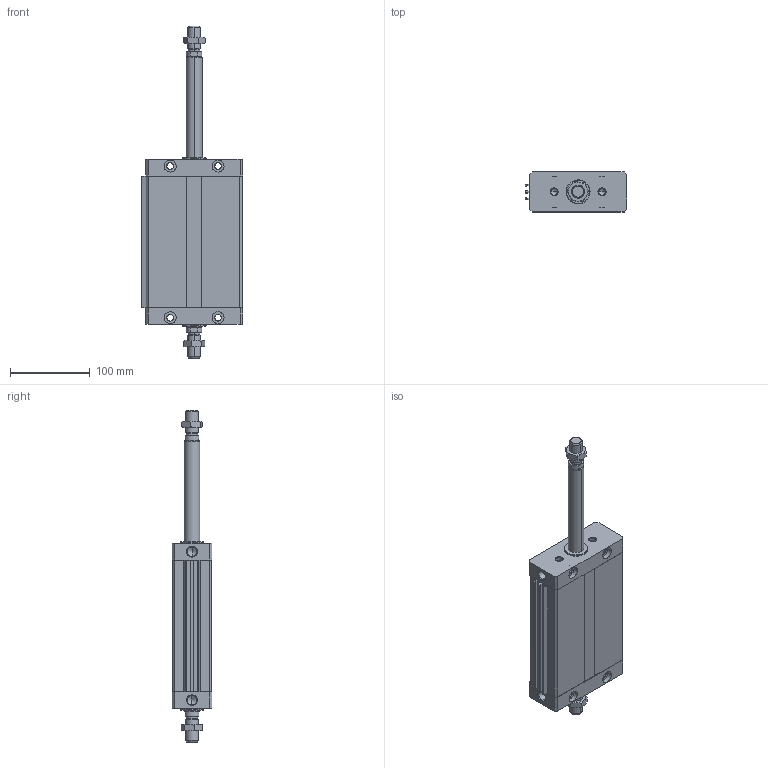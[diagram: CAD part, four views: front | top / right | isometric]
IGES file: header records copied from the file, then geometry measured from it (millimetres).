
Global section: file name: No Iges File Name specified; native system: Autodesk Inventor 2011; preprocessor: AutoDesk Inventor Iges Exporter R2011; author: airolcr1; date: 20101213.153530; units: millimetre
Bounding box: 126.75 x 50 x 416 mm (x, y, z)
Volume: 906097 mm3; surface area: 201682.9 mm2
Topology: 6 solids, 6 shells, 280 faces, 664 edges, 396 vertices
Faces by surface type: bspline 114, plane 98, cone 36, cylinder 18, revolution 14
